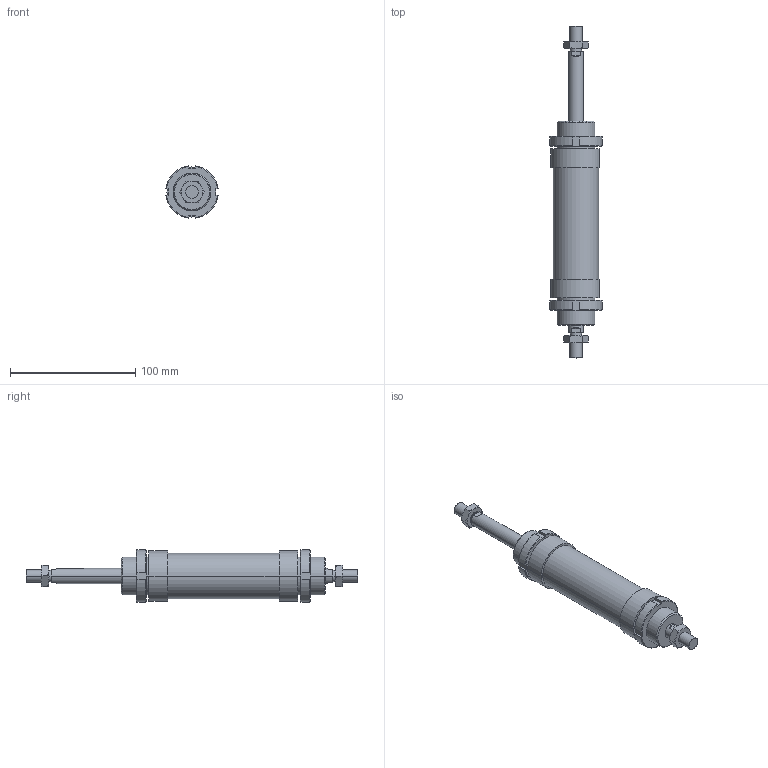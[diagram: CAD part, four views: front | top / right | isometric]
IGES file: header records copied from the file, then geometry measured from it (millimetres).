
Global section: file name: No Iges File Name specified; native system: AutoDesk Inventor R6.0; preprocessor: AutoDesk Inventor Iges Exporter R6.0; author: No Author specified; organization: No Organization specified; date: 20030403.072617; units: millimetre
Bounding box: 41.7 x 265 x 41.7 mm (x, y, z)
Volume: 181147.2 mm3; surface area: 45258.9 mm2
Topology: 6 solids, 6 shells, 182 faces, 424 edges, 264 vertices
Faces by surface type: plane 66, cone 52, bspline 30, cylinder 28, revolution 6
